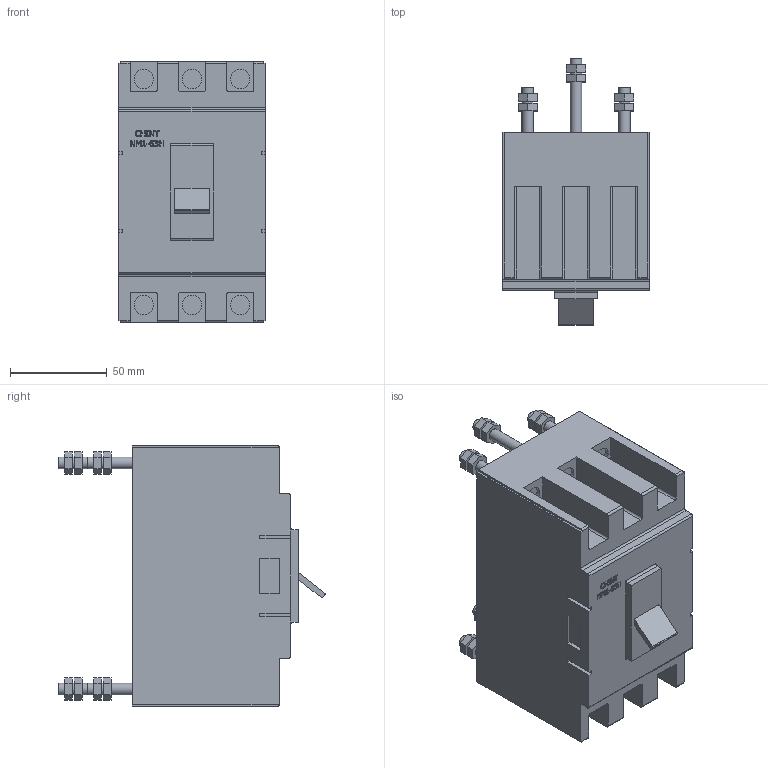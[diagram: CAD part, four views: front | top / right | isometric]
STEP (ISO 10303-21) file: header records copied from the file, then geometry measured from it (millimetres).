
FILE_DESCRIPTION(/* description */ ('','CAx-IF Rec.Pracs.---Representation and Presentation of Product Manufacturing Information (PMI)---3.8---2014-02-18'),/* implementation_level */ '2;1');
FILE_NAME(/* name */ 'C:\Users\ILYA\Desktop\NM1\Авт. выкл. NM1-63H3Р 63A 35кА (CHINT) заднее присоединение\Авт. выкл. NM1-63H3Р 63A 35кА (CHINT) заднее присоединение.stp',/* time_stamp */ '2017-08-19T09:01:36+03:00',/* author */ ('ILYA'),/* organization */ (''),/* preprocessor_version */ 'ST-DEVELOPER v16.1',/* originating_system */ 'Autodesk Inventor 2016',/* authorisation */ '');
FILE_SCHEMA (('AP242_MANAGED_MODEL_BASED_3D_ENGINEERING_MIM_LF { 1 0 10303 442 1 1 4 }'));
Length unit declared in the file: millimetre
Products named in the file (1): Авт. выкл. NM1-63H3Р 
63A 35кА (CHINT) заднее \X2\043F
044004380441043E043504340438043D0435043D04380435\X0\
Bounding box: 76 x 137.8 x 135 mm (x, y, z)
Volume: 766566 mm3; surface area: 70490.3 mm2
Topology: 1 solids, 1 shells, 411 faces, 1064 edges, 708 vertices
Faces by surface type: plane 304, bspline 55, cylinder 52
Full cylindrical faces by diameter (mm): 6 x18, 10 x6
Entity records: 12943 total; most frequent: CARTESIAN_POINT 3040, ORIENTED_EDGE 2080, DIRECTION 1748, EDGE_CURVE 1040, LINE 826, VECTOR 826, VERTEX_POINT 708, EDGE_LOOP 488
